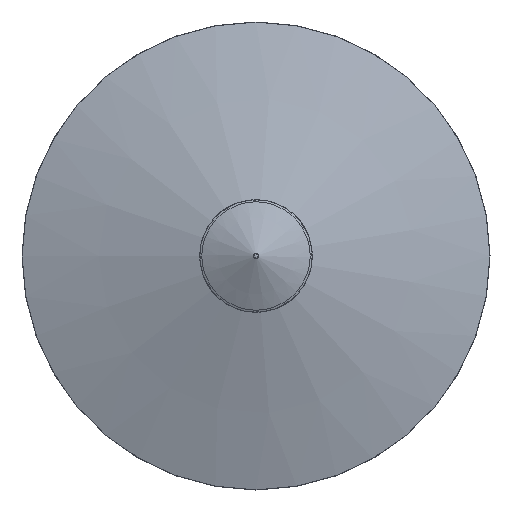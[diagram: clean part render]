
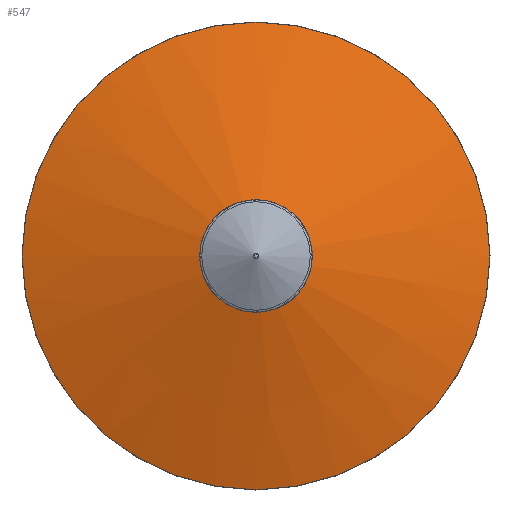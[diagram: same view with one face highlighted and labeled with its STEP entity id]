
A CAD part, front view. The second image highlights one B-rep face of the part: STEP entity #547.
In plain terms, the highlighted conical face has half-angle 73.2 degrees and reference radius 280.111 mm.
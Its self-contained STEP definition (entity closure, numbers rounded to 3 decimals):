
#87=CONICAL_SURFACE('',#742,280.111,1.278);
#101=FACE_OUTER_BOUND('',#135,.T.);
#135=EDGE_LOOP('',(#402,#403,#404,#405,#406,#407,#408));
#175=LINE('',#1091,#193);
#193=VECTOR('',#867,280.111);
#215=CIRCLE('',#738,10.575);
#216=CIRCLE('',#739,10.575);
#217=CIRCLE('',#740,10.575);
#219=CIRCLE('',#743,550.);
#220=CIRCLE('',#744,550.);
#270=VERTEX_POINT('',#1079);
#271=VERTEX_POINT('',#1081);
#272=VERTEX_POINT('',#1083);
#273=VERTEX_POINT('',#1088);
#274=VERTEX_POINT('',#1089);
#323=EDGE_CURVE('',#270,#271,#215,.T.);
#324=EDGE_CURVE('',#271,#272,#216,.T.);
#325=EDGE_CURVE('',#272,#270,#217,.T.);
#327=EDGE_CURVE('',#273,#274,#219,.T.);
#328=EDGE_CURVE('',#274,#271,#175,.T.);
#329=EDGE_CURVE('',#274,#273,#220,.T.);
#402=ORIENTED_EDGE('',*,*,#327,.T.);
#403=ORIENTED_EDGE('',*,*,#328,.T.);
#404=ORIENTED_EDGE('',*,*,#323,.F.);
#405=ORIENTED_EDGE('',*,*,#325,.F.);
#406=ORIENTED_EDGE('',*,*,#324,.F.);
#407=ORIENTED_EDGE('',*,*,#328,.F.);
#408=ORIENTED_EDGE('',*,*,#329,.T.);
#547=ADVANCED_FACE('',(#101),#87,.T.);
#738=AXIS2_PLACEMENT_3D('',#1082,#855,#856);
#739=AXIS2_PLACEMENT_3D('',#1084,#857,#858);
#740=AXIS2_PLACEMENT_3D('',#1085,#859,#860);
#742=AXIS2_PLACEMENT_3D('',#1087,#863,#864);
#743=AXIS2_PLACEMENT_3D('',#1090,#865,#866);
#744=AXIS2_PLACEMENT_3D('',#1092,#868,#869);
#855=DIRECTION('center_axis',(0.,-1.,0.));
#856=DIRECTION('ref_axis',(-1.,0.,0.));
#857=DIRECTION('center_axis',(0.,-1.,0.));
#858=DIRECTION('ref_axis',(-1.,0.,0.));
#859=DIRECTION('center_axis',(0.,-1.,0.));
#860=DIRECTION('ref_axis',(-1.,0.,0.));
#863=DIRECTION('center_axis',(0.,1.,0.));
#864=DIRECTION('ref_axis',(1.,0.,0.));
#865=DIRECTION('center_axis',(0.,-1.,0.));
#866=DIRECTION('ref_axis',(1.,0.,0.));
#867=DIRECTION('',(0.957,-0.289,0.));
#868=DIRECTION('center_axis',(0.,-1.,0.));
#869=DIRECTION('ref_axis',(1.,0.,0.));
#1079=CARTESIAN_POINT('',(0.,-1.393,10.575));
#1081=CARTESIAN_POINT('',(-10.575,-1.393,0.));
#1082=CARTESIAN_POINT('Origin',(0.,-1.393,0.));
#1083=CARTESIAN_POINT('',(10.575,-1.393,0.));
#1084=CARTESIAN_POINT('Origin',(0.,-1.393,0.));
#1085=CARTESIAN_POINT('Origin',(0.,-1.393,0.));
#1087=CARTESIAN_POINT('Origin',(0.,79.984,0.));
#1088=CARTESIAN_POINT('',(550.,161.469,0.));
#1089=CARTESIAN_POINT('',(-550.,161.469,0.));
#1090=CARTESIAN_POINT('Origin',(0.,161.469,0.));
#1091=CARTESIAN_POINT('',(-280.111,79.984,0.));
#1092=CARTESIAN_POINT('Origin',(0.,161.469,0.));
